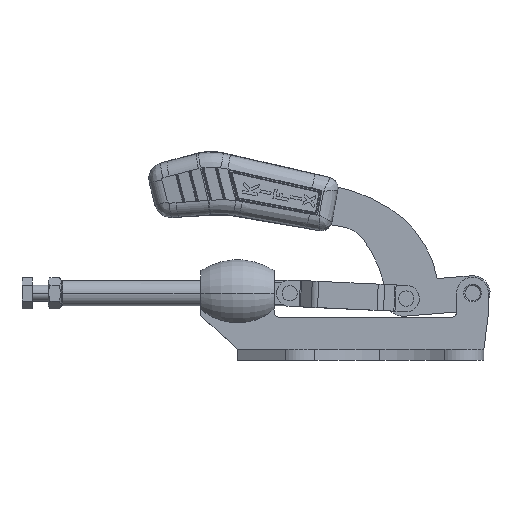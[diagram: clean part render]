
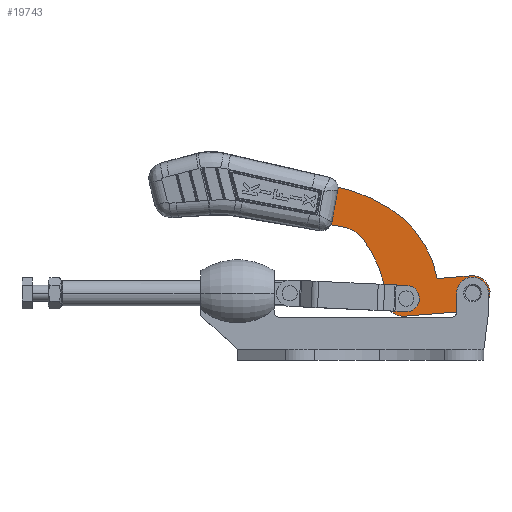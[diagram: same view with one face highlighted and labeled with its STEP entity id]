
A CAD part, top view. The second image highlights one B-rep face of the part: STEP entity #19743.
In plain terms, the highlighted planar face has unit normal (0, 0, 1) as drawn and (0, 0, -1) by its records, which use the part's own axes.
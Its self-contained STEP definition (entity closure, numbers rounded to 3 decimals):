
#30 = CARTESIAN_POINT ( 'NONE',  ( 32.197, 10.91, -3.75 ) ) ;
#107 = VERTEX_POINT ( 'NONE', #6381 ) ;
#276 = EDGE_CURVE ( 'NONE', #2522, #5547, #402, .T. ) ;
#402 = CIRCLE ( 'NONE', #19880, 10.91 ) ;
#438 = DIRECTION ( 'NONE',  ( 0., 0., -1. ) ) ;
#778 = AXIS2_PLACEMENT_3D ( 'NONE', #15814, #5575, #17522 ) ;
#860 = FACE_BOUND ( 'NONE', #18706, .T. ) ;
#1129 = EDGE_CURVE ( 'NONE', #14678, #6923, #13532, .T. ) ;
#1265 = DIRECTION ( 'NONE',  ( 0., 0., 1. ) ) ;
#1549 = EDGE_CURVE ( 'NONE', #5547, #6078, #7636, .T. ) ;
#1581 = ORIENTED_EDGE ( 'NONE', *, *, #1549, .F. ) ;
#1591 = DIRECTION ( 'NONE',  ( -1., 0., 0. ) ) ;
#1839 = CIRCLE ( 'NONE', #4069, 4. ) ;
#1901 = FACE_BOUND ( 'NONE', #14209, .T. ) ;
#1905 = ORIENTED_EDGE ( 'NONE', *, *, #11191, .T. ) ;
#1927 = VERTEX_POINT ( 'NONE', #2646 ) ;
#2423 = DIRECTION ( 'NONE',  ( 1., 0., 0. ) ) ;
#2522 = VERTEX_POINT ( 'NONE', #3760 ) ;
#2570 = DIRECTION ( 'NONE',  ( 0.965, 0.262, 0. ) ) ;
#2646 = CARTESIAN_POINT ( 'NONE',  ( 88.055, 47.692, -3.75 ) ) ;
#3222 = AXIS2_PLACEMENT_3D ( 'NONE', #15967, #5725, #17695 ) ;
#3285 = CARTESIAN_POINT ( 'NONE',  ( 14.91, 0., -3.75 ) ) ;
#3377 = CARTESIAN_POINT ( 'NONE',  ( 58.75, 57.31, -3.75 ) ) ;
#3532 = CARTESIAN_POINT ( 'NONE',  ( 10.91, 0., -3.75 ) ) ;
#3760 = CARTESIAN_POINT ( 'NONE',  ( 10.91, 10.91, -3.75 ) ) ;
#4002 = EDGE_CURVE ( 'NONE', #12632, #13075, #11053, .T. ) ;
#4069 = AXIS2_PLACEMENT_3D ( 'NONE', #3532, #15532, #5285 ) ;
#4301 = CIRCLE ( 'NONE', #19385, 10.91 ) ;
#4378 = DIRECTION ( 'NONE',  ( -1., 0., 0. ) ) ;
#4544 = AXIS2_PLACEMENT_3D ( 'NONE', #22118, #11866, #1591 ) ;
#4545 = CIRCLE ( 'NONE', #778, 20. ) ;
#4851 = AXIS2_PLACEMENT_3D ( 'NONE', #20315, #10046, #22022 ) ;
#4964 = CARTESIAN_POINT ( 'NONE',  ( 10.91, 0., -3.75 ) ) ;
#5031 = ORIENTED_EDGE ( 'NONE', *, *, #19647, .T. ) ;
#5093 = CIRCLE ( 'NONE', #12377, 4. ) ;
#5142 = CIRCLE ( 'NONE', #4851, 4. ) ;
#5262 = PLANE ( 'NONE',  #14862 ) ;
#5285 = DIRECTION ( 'NONE',  ( 1., 0., 0. ) ) ;
#5547 = VERTEX_POINT ( 'NONE', #7338 ) ;
#5575 = DIRECTION ( 'NONE',  ( 0., 0., 1. ) ) ;
#5581 = CARTESIAN_POINT ( 'NONE',  ( 54.42, -10.91, -3.75 ) ) ;
#5725 = DIRECTION ( 'NONE',  ( 0., 0., -1. ) ) ;
#5766 = EDGE_LOOP ( 'NONE', ( #7550, #19954, #1905, #5031, #8506, #15654, #10617, #17657, #7210, #1581, #18414, #13713 ) ) ;
#5844 = DIRECTION ( 'NONE',  ( 0., 0., 1. ) ) ;
#5852 = CARTESIAN_POINT ( 'NONE',  ( 99.083, 3.431, -3.75 ) ) ;
#5906 = CARTESIAN_POINT ( 'NONE',  ( 10.91, -10.91, -3.75 ) ) ;
#5990 = EDGE_CURVE ( 'NONE', #6078, #10777, #4301, .T. ) ;
#6078 = VERTEX_POINT ( 'NONE', #5581 ) ;
#6099 = ORIENTED_EDGE ( 'NONE', *, *, #20078, .T. ) ;
#6381 = CARTESIAN_POINT ( 'NONE',  ( 172.711, 70.682, -3.75 ) ) ;
#6610 = CARTESIAN_POINT ( 'NONE',  ( 54.42, 0., -3.75 ) ) ;
#6719 = DIRECTION ( 'NONE',  ( 1., 0., 0. ) ) ;
#6923 = VERTEX_POINT ( 'NONE', #13465 ) ;
#7007 = DIRECTION ( 'NONE',  ( 0., 0., 1. ) ) ;
#7021 = AXIS2_PLACEMENT_3D ( 'NONE', #6610, #18571, #8345 ) ;
#7023 = EDGE_CURVE ( 'NONE', #1927, #6923, #4545, .T. ) ;
#7088 = CARTESIAN_POINT ( 'NONE',  ( 54.42, 0., -3.75 ) ) ;
#7210 = ORIENTED_EDGE ( 'NONE', *, *, #5990, .F. ) ;
#7322 = EDGE_CURVE ( 'NONE', #13571, #8792, #14440, .T. ) ;
#7338 = CARTESIAN_POINT ( 'NONE',  ( 10.91, -10.91, -3.75 ) ) ;
#7550 = ORIENTED_EDGE ( 'NONE', *, *, #4002, .F. ) ;
#7586 = CARTESIAN_POINT ( 'NONE',  ( 48.56, 0., -3.75 ) ) ;
#7591 = DIRECTION ( 'NONE',  ( 1., 0., 0. ) ) ;
#7636 = LINE ( 'NONE', #5906, #16715 ) ;
#8028 = VERTEX_POINT ( 'NONE', #10739 ) ;
#8345 = DIRECTION ( 'NONE',  ( 1., 0., 0. ) ) ;
#8446 = CARTESIAN_POINT ( 'NONE',  ( 65.326, 0.28, -3.75 ) ) ;
#8506 = ORIENTED_EDGE ( 'NONE', *, *, #9315, .T. ) ;
#8559 = CARTESIAN_POINT ( 'NONE',  ( 166.421, 93.843, -3.75 ) ) ;
#8792 = VERTEX_POINT ( 'NONE', #15082 ) ;
#8822 = DIRECTION ( 'NONE',  ( 1., 0., 0. ) ) ;
#9157 = LINE ( 'NONE', #18078, #13710 ) ;
#9315 = EDGE_CURVE ( 'NONE', #107, #1927, #11181, .T. ) ;
#9556 = CARTESIAN_POINT ( 'NONE',  ( 6.91, 0., -3.75 ) ) ;
#9950 = ORIENTED_EDGE ( 'NONE', *, *, #7322, .T. ) ;
#10046 = DIRECTION ( 'NONE',  ( 0., 0., 1. ) ) ;
#10489 = AXIS2_PLACEMENT_3D ( 'NONE', #10713, #438, #12426 ) ;
#10617 = ORIENTED_EDGE ( 'NONE', *, *, #1129, .F. ) ;
#10627 = VECTOR ( 'NONE', #16535, 1000. ) ;
#10713 = CARTESIAN_POINT ( 'NONE',  ( 118.677, -22.744, -3.75 ) ) ;
#10739 = CARTESIAN_POINT ( 'NONE',  ( 92.47, 73.761, -3.75 ) ) ;
#10777 = VERTEX_POINT ( 'NONE', #22012 ) ;
#10852 = LINE ( 'NONE', #14558, #15384 ) ;
#11053 = CIRCLE ( 'NONE', #16619, 67.303 ) ;
#11181 = LINE ( 'NONE', #21705, #10627 ) ;
#11191 = EDGE_CURVE ( 'NONE', #8028, #14165, #10852, .T. ) ;
#11556 = CARTESIAN_POINT ( 'NONE',  ( 10.91, 0., -3.75 ) ) ;
#11866 = DIRECTION ( 'NONE',  ( 0., 0., -1. ) ) ;
#12083 = CIRCLE ( 'NONE', #7021, 10.91 ) ;
#12377 = AXIS2_PLACEMENT_3D ( 'NONE', #11556, #1265, #13270 ) ;
#12426 = DIRECTION ( 'NONE',  ( 1., 0., 0. ) ) ;
#12632 = VERTEX_POINT ( 'NONE', #3377 ) ;
#12934 = ORIENTED_EDGE ( 'NONE', *, *, #16048, .T. ) ;
#13075 = VERTEX_POINT ( 'NONE', #30 ) ;
#13270 = DIRECTION ( 'NONE',  ( 1., 0., 0. ) ) ;
#13465 = CARTESIAN_POINT ( 'NONE',  ( 76.66, 39.492, -3.75 ) ) ;
#13484 = EDGE_CURVE ( 'NONE', #12632, #8028, #15326, .T. ) ;
#13532 = CIRCLE ( 'NONE', #3222, 67.528 ) ;
#13571 = VERTEX_POINT ( 'NONE', #7586 ) ;
#13710 = VECTOR ( 'NONE', #4378, 1000. ) ;
#13713 = ORIENTED_EDGE ( 'NONE', *, *, #14474, .F. ) ;
#13792 = CARTESIAN_POINT ( 'NONE',  ( 10.91, 0., -3.75 ) ) ;
#14165 = VERTEX_POINT ( 'NONE', #8559 ) ;
#14209 = EDGE_LOOP ( 'NONE', ( #6099, #9950 ) ) ;
#14440 = CIRCLE ( 'NONE', #20304, 4. ) ;
#14474 = EDGE_CURVE ( 'NONE', #13075, #2522, #9157, .T. ) ;
#14510 = FACE_OUTER_BOUND ( 'NONE', #5766, .T. ) ;
#14558 = CARTESIAN_POINT ( 'NONE',  ( 92.47, 73.761, -3.75 ) ) ;
#14678 = VERTEX_POINT ( 'NONE', #8446 ) ;
#14862 = AXIS2_PLACEMENT_3D ( 'NONE', #13792, #7007, #18967 ) ;
#15082 = CARTESIAN_POINT ( 'NONE',  ( 56.56, 0., -3.75 ) ) ;
#15326 = CIRCLE ( 'NONE', #10489, 100. ) ;
#15384 = VECTOR ( 'NONE', #2570, 1000. ) ;
#15532 = DIRECTION ( 'NONE',  ( 0., 0., 1. ) ) ;
#15654 = ORIENTED_EDGE ( 'NONE', *, *, #7023, .T. ) ;
#15693 = VERTEX_POINT ( 'NONE', #3285 ) ;
#15814 = CARTESIAN_POINT ( 'NONE',  ( 93.296, 28.392, -3.75 ) ) ;
#15967 = CARTESIAN_POINT ( 'NONE',  ( 132.832, 2.013, -3.75 ) ) ;
#16048 = EDGE_CURVE ( 'NONE', #16460, #15693, #5093, .T. ) ;
#16083 = CARTESIAN_POINT ( 'NONE',  ( 52.56, 0., -3.75 ) ) ;
#16460 = VERTEX_POINT ( 'NONE', #9556 ) ;
#16535 = DIRECTION ( 'NONE',  ( -0.965, -0.262, 0. ) ) ;
#16619 = AXIS2_PLACEMENT_3D ( 'NONE', #5852, #17805, #7591 ) ;
#16715 = VECTOR ( 'NONE', #2423, 1000. ) ;
#16946 = DIRECTION ( 'NONE',  ( 0., 0., 1. ) ) ;
#17522 = DIRECTION ( 'NONE',  ( 1., 0., 0. ) ) ;
#17657 = ORIENTED_EDGE ( 'NONE', *, *, #21061, .F. ) ;
#17695 = DIRECTION ( 'NONE',  ( 1., 0., 0. ) ) ;
#17751 = EDGE_CURVE ( 'NONE', #15693, #16460, #1839, .T. ) ;
#17797 = DIRECTION ( 'NONE',  ( 1., 0., 0. ) ) ;
#17805 = DIRECTION ( 'NONE',  ( 0., 0., 1. ) ) ;
#18078 = CARTESIAN_POINT ( 'NONE',  ( 10.91, 10.91, -3.75 ) ) ;
#18414 = ORIENTED_EDGE ( 'NONE', *, *, #276, .F. ) ;
#18571 = DIRECTION ( 'NONE',  ( 0., 0., 1. ) ) ;
#18706 = EDGE_LOOP ( 'NONE', ( #21813, #12934 ) ) ;
#18967 = DIRECTION ( 'NONE',  ( 1., 0., 0. ) ) ;
#19058 = DIRECTION ( 'NONE',  ( 0., 0., 1. ) ) ;
#19385 = AXIS2_PLACEMENT_3D ( 'NONE', #7088, #19058, #8822 ) ;
#19635 = CIRCLE ( 'NONE', #4544, 12. ) ;
#19647 = EDGE_CURVE ( 'NONE', #14165, #107, #19635, .T. ) ;
#19743 = ADVANCED_FACE ( 'NONE', ( #14510, #1901, #860 ), #5262, .F. ) ;
#19880 = AXIS2_PLACEMENT_3D ( 'NONE', #4964, #16946, #6719 ) ;
#19954 = ORIENTED_EDGE ( 'NONE', *, *, #13484, .T. ) ;
#20078 = EDGE_CURVE ( 'NONE', #8792, #13571, #5142, .T. ) ;
#20304 = AXIS2_PLACEMENT_3D ( 'NONE', #16083, #5844, #17797 ) ;
#20315 = CARTESIAN_POINT ( 'NONE',  ( 52.56, 0., -3.75 ) ) ;
#21061 = EDGE_CURVE ( 'NONE', #10777, #14678, #12083, .T. ) ;
#21705 = CARTESIAN_POINT ( 'NONE',  ( 172.711, 70.682, -3.75 ) ) ;
#21813 = ORIENTED_EDGE ( 'NONE', *, *, #17751, .T. ) ;
#22012 = CARTESIAN_POINT ( 'NONE',  ( 65.33, 0., -3.75 ) ) ;
#22022 = DIRECTION ( 'NONE',  ( 1., 0., 0. ) ) ;
#22118 = CARTESIAN_POINT ( 'NONE',  ( 169.566, 82.263, -3.75 ) ) ;
